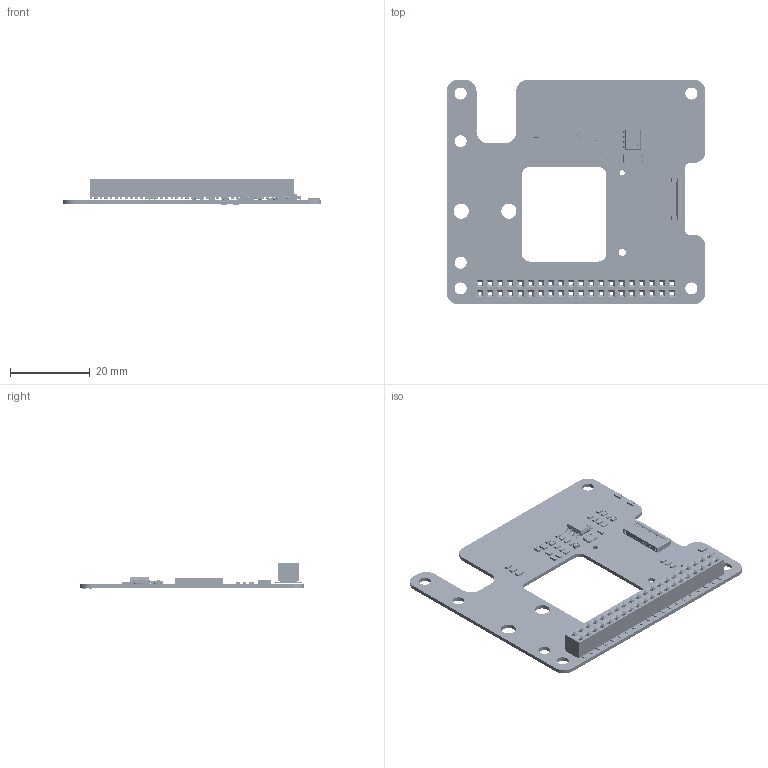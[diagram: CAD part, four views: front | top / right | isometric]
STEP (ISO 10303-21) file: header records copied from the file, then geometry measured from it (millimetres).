
FILE_DESCRIPTION(('Open CASCADE Model'),'2;1');
FILE_NAME('Open CASCADE Shape Model','2025-06-09T14:23:21',('Author'),( 'Open CASCADE'),'Open CASCADE STEP processor 6.5','Open CASCADE 6.5' ,'Unknown');
FILE_SCHEMA(('AUTOMOTIVE_DESIGN { 1 0 10303 214 1 1 1 1 }'));
Length unit declared in the file: millimetre
Products named in the file (94): PCB; Board; R30; R0603; R_0603-3615_AF0_ASM; R_0603-3601_AF0_ASM; _2_1_2_3_4_AF0; _7_1_2_AF0; 5_1_2_3_400; R29; R28; R27; R26; R25; R22; R17; R16; C2; C_0805; C_0805-3038_AF1_ASM; C_0805-10418_AF1_ASM; 500; _1_1_2_30001; 4_A; C5; U3; User_Library-sop-8; R21; R0805; R_0805-7019_AF0_ASM; R_0805-6998_AF0_ASM; _2_1_2_3_4_5_6_AF0; _7_1_2_3_4_AF0; 5_1_2_3_4_5_600; R20; R15; R13; R12; LED2; 499107984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
Assembly tree (148 placements, depth 6):
  PCB
    Board
    R30
      R0603
        R_0603-3615_AF0_ASM
          R_0603-3601_AF0_ASM
            _2_1_2_3_4_AF0
            _7_1_2_AF0
            5_1_2_3_400
    R29
      R0603
        R_0603-3615_AF0_ASM
          R_0603-3601_AF0_ASM
            _2_1_2_3_4_AF0
            _7_1_2_AF0
            5_1_2_3_400
    R28
      R0603
        R_0603-3615_AF0_ASM
          R_0603-3601_AF0_ASM
            _2_1_2_3_4_AF0
            _7_1_2_AF0
            5_1_2_3_400
    R27
      R0603
        R_0603-3615_AF0_ASM
          R_0603-3601_AF0_ASM
            _2_1_2_3_4_AF0
            _7_1_2_AF0
            5_1_2_3_400
    R26
      R0603
        R_0603-3615_AF0_ASM
          R_0603-3601_AF0_ASM
            _2_1_2_3_4_AF0
            _7_1_2_AF0
            5_1_2_3_400
    R25
      R0603
        R_0603-3615_AF0_ASM
          R_0603-3601_AF0_ASM
            _2_1_2_3_4_AF0
            _7_1_2_AF0
            5_1_2_3_400
    R22
      R0603
        R_0603-3615_AF0_ASM
          R_0603-3601_AF0_ASM
            _2_1_2_3_4_AF0
            _7_1_2_AF0
            5_1_2_3_400
    R17
      R0603
        R_0603-3615_AF0_ASM
          R_0603-3601_AF0_ASM
            _2_1_2_3_4_AF0
            _7_1_2_AF0
            5_1_2_3_400
    R16
      R0603
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Bounding box: 65.02 x 56.52 x 6.59 mm (x, y, z)
Volume: 3761.6 mm3; surface area: 9762.2 mm2
Topology: 142 solids, 142 shells, 19555 faces, 52648 edges, 34828 vertices
Faces by surface type: plane 14116, extrusion 4720, cylinder 581, sphere 96, bspline 42
Full cylindrical faces by diameter (mm): 0.95 x40, 1.3 x1, 1.7 x2, 1.8 x1, 3.8 x2
Entity records: 366468 total; most frequent: CARTESIAN_POINT 112730, DIRECTION 37500, VECTOR 27975, LINE 27409, ORIENTED_EDGE 23340, PCURVE 23340, DEFINITIONAL_REPRESENTATION 23340, EDGE_CURVE 11670
